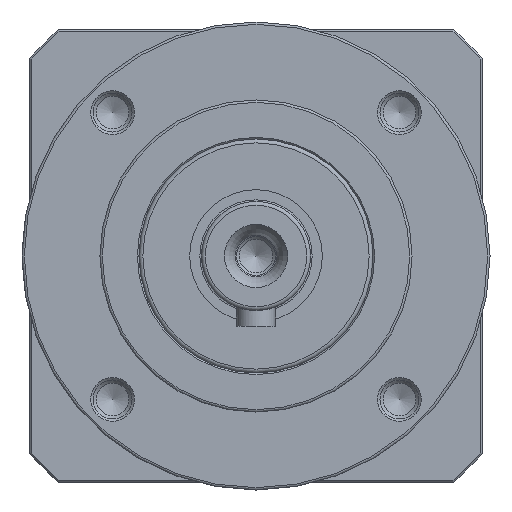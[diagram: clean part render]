
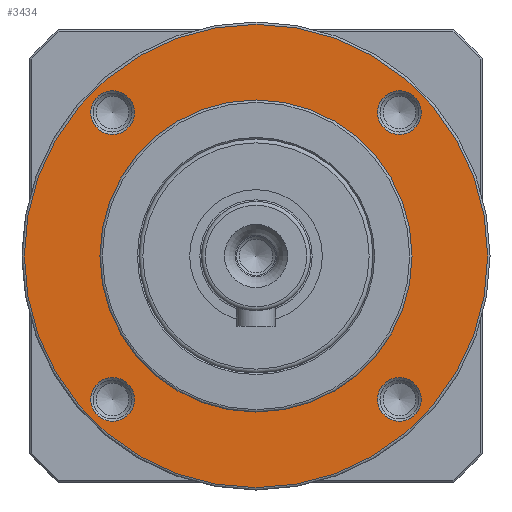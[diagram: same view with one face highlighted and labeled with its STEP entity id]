
A CAD part, left-side view. The second image highlights one B-rep face of the part: STEP entity #3434.
In plain terms, the highlighted planar face has unit normal (-1, 0, 0).
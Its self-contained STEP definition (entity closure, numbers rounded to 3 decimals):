
#445=FACE_BOUND($,#1013,.T.);
#446=FACE_BOUND($,#1014,.T.);
#447=FACE_BOUND($,#1015,.T.);
#448=FACE_BOUND($,#1016,.T.);
#449=FACE_BOUND($,#1017,.T.);
#701=FACE_OUTER_BOUND($,#1012,.T.);
#1012=EDGE_LOOP($,(#2601));
#1013=EDGE_LOOP($,(#2602));
#1014=EDGE_LOOP($,(#2603));
#1015=EDGE_LOOP($,(#2604));
#1016=EDGE_LOOP($,(#2605));
#1017=EDGE_LOOP($,(#2606));
#1557=CIRCLE($,#3763,29.7);
#1558=CIRCLE($,#3766,2.8);
#1559=CIRCLE($,#3767,2.8);
#1560=CIRCLE($,#3768,2.8);
#1561=CIRCLE($,#3769,2.8);
#1562=CIRCLE($,#3770,20.);
#1848=VERTEX_POINT($,#5642);
#1849=VERTEX_POINT($,#5646);
#1850=VERTEX_POINT($,#5648);
#1851=VERTEX_POINT($,#5650);
#1852=VERTEX_POINT($,#5652);
#1853=VERTEX_POINT($,#5654);
#2195=EDGE_CURVE($,#1848,#1848,#1557,.T.);
#2196=EDGE_CURVE($,#1849,#1849,#1558,.T.);
#2197=EDGE_CURVE($,#1850,#1850,#1559,.T.);
#2198=EDGE_CURVE($,#1851,#1851,#1560,.T.);
#2199=EDGE_CURVE($,#1852,#1852,#1561,.T.);
#2200=EDGE_CURVE($,#1853,#1853,#1562,.T.);
#2601=ORIENTED_EDGE($,*,*,#2195,.F.);
#2602=ORIENTED_EDGE($,*,*,#2196,.T.);
#2603=ORIENTED_EDGE($,*,*,#2197,.T.);
#2604=ORIENTED_EDGE($,*,*,#2198,.T.);
#2605=ORIENTED_EDGE($,*,*,#2199,.T.);
#2606=ORIENTED_EDGE($,*,*,#2200,.F.);
#3340=PLANE($,#3765);
#3434=ADVANCED_FACE($,(#701,#445,#446,#447,#448,#449),#3340,.T.);
#3763=AXIS2_PLACEMENT_3D($,#5643,#4377,#4378);
#3765=AXIS2_PLACEMENT_3D($,#5645,#4381,#4382);
#3766=AXIS2_PLACEMENT_3D($,#5647,#4383,#4384);
#3767=AXIS2_PLACEMENT_3D($,#5649,#4385,#4386);
#3768=AXIS2_PLACEMENT_3D($,#5651,#4387,#4388);
#3769=AXIS2_PLACEMENT_3D($,#5653,#4389,#4390);
#3770=AXIS2_PLACEMENT_3D($,#5655,#4391,#4392);
#4377=DIRECTION('center_axis',(1.,0.,0.));
#4378=DIRECTION('ref_axis',(0.,1.,0.));
#4381=DIRECTION('center_axis',(-1.,0.,0.));
#4382=DIRECTION('ref_axis',(0.,1.,0.));
#4383=DIRECTION('center_axis',(1.,0.,0.));
#4384=DIRECTION('ref_axis',(0.,0.,-1.));
#4385=DIRECTION('center_axis',(1.,0.,0.));
#4386=DIRECTION('ref_axis',(0.,0.,-1.));
#4387=DIRECTION('center_axis',(1.,0.,0.));
#4388=DIRECTION('ref_axis',(0.,0.,-1.));
#4389=DIRECTION('center_axis',(1.,0.,0.));
#4390=DIRECTION('ref_axis',(0.,0.,-1.));
#4391=DIRECTION('center_axis',(-1.,0.,0.));
#4392=DIRECTION('ref_axis',(0.,1.,0.));
#5642=CARTESIAN_POINT('',(0.,-29.7,0.));
#5643=CARTESIAN_POINT('Origin',(0.,0.,0.));
#5645=CARTESIAN_POINT('Origin',(0.,0.,0.));
#5646=CARTESIAN_POINT('',(0.,21.185,18.385));
#5647=CARTESIAN_POINT('Origin',(0.,18.385,18.385));
#5648=CARTESIAN_POINT('',(0.,18.385,-21.185));
#5649=CARTESIAN_POINT('Origin',(0.,18.385,-18.385));
#5650=CARTESIAN_POINT('',(0.,-21.185,-18.385));
#5651=CARTESIAN_POINT('Origin',(0.,-18.385,-18.385));
#5652=CARTESIAN_POINT('',(0.,-18.385,21.185));
#5653=CARTESIAN_POINT('Origin',(0.,-18.385,18.385));
#5654=CARTESIAN_POINT('',(0.,20.,0.));
#5655=CARTESIAN_POINT('Origin',(0.,0.,0.));
